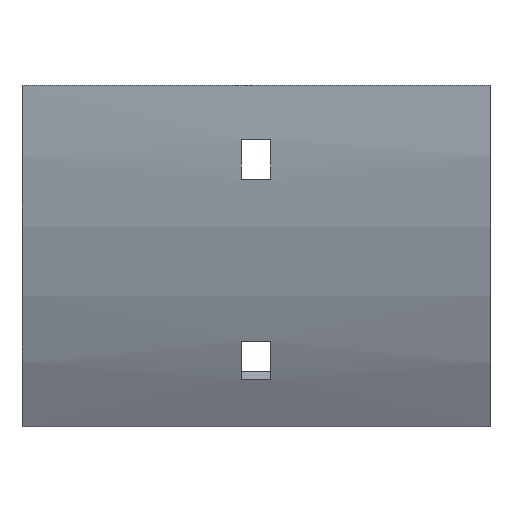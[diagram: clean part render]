
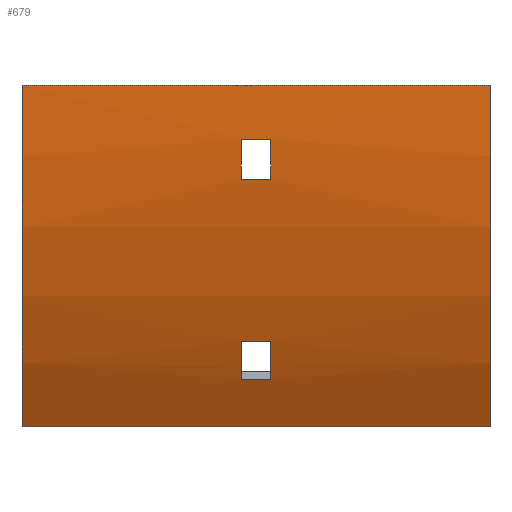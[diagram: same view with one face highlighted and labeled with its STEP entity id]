
A CAD part, front view. The second image highlights one B-rep face of the part: STEP entity #679.
In plain terms, the highlighted cylindrical face has radius 152 mm (diameter 304 mm), a partial arc.
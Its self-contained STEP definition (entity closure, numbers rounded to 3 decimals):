
#4 = EDGE_CURVE ( 'NONE', #702, #577, #79, .T. ) ;
#29 = FACE_BOUND ( 'NONE', #1082, .T. ) ;
#35 = CARTESIAN_POINT ( 'NONE',  ( 3.25, 100., 0. ) ) ;
#48 = DIRECTION ( 'NONE',  ( 1., 0., 0. ) ) ;
#58 = EDGE_LOOP ( 'NONE', ( #423, #208, #247, #1076 ) ) ;
#62 = CARTESIAN_POINT ( 'NONE',  ( -3.25, -40.874, -57.085 ) ) ;
#79 = LINE ( 'NONE', #171, #923 ) ;
#87 = AXIS2_PLACEMENT_3D ( 'NONE', #1057, #740, #330 ) ;
#89 = LINE ( 'NONE', #253, #199 ) ;
#92 = EDGE_CURVE ( 'NONE', #344, #1008, #1104, .T. ) ;
#104 = VERTEX_POINT ( 'NONE', #934 ) ;
#114 = LINE ( 'NONE', #459, #675 ) ;
#118 = CARTESIAN_POINT ( 'NONE',  ( -3.25, 100., 0. ) ) ;
#120 = DIRECTION ( 'NONE',  ( 1., 0., 0. ) ) ;
#139 = CARTESIAN_POINT ( 'NONE',  ( 3.25, -50.542, -21. ) ) ;
#144 = CIRCLE ( 'NONE', #87, 152. ) ;
#154 = DIRECTION ( 'NONE',  ( 0., 0., -1. ) ) ;
#155 = VERTEX_POINT ( 'NONE', #62 ) ;
#171 = CARTESIAN_POINT ( 'NONE',  ( 52., -50.542, -21. ) ) ;
#173 = VERTEX_POINT ( 'NONE', #1115 ) ;
#199 = VECTOR ( 'NONE', #783, 1000. ) ;
#208 = ORIENTED_EDGE ( 'NONE', *, *, #974, .F. ) ;
#215 = EDGE_CURVE ( 'NONE', #577, #344, #714, .T. ) ;
#224 = ORIENTED_EDGE ( 'NONE', *, *, #1111, .T. ) ;
#226 = CYLINDRICAL_SURFACE ( 'NONE', #1148, 152. ) ;
#245 = CARTESIAN_POINT ( 'NONE',  ( 52., -52., 0. ) ) ;
#247 = ORIENTED_EDGE ( 'NONE', *, *, #610, .F. ) ;
#251 = VERTEX_POINT ( 'NONE', #1034 ) ;
#253 = CARTESIAN_POINT ( 'NONE',  ( 52., -52., 0. ) ) ;
#277 = CARTESIAN_POINT ( 'NONE',  ( 52., -51.526, -12. ) ) ;
#280 = LINE ( 'NONE', #644, #647 ) ;
#287 = AXIS2_PLACEMENT_3D ( 'NONE', #35, #901, #468 ) ;
#292 = CARTESIAN_POINT ( 'NONE',  ( -52., 100., 0. ) ) ;
#298 = DIRECTION ( 'NONE',  ( 1., 0., 0. ) ) ;
#301 = DIRECTION ( 'NONE',  ( 0., 0., -1. ) ) ;
#310 = VERTEX_POINT ( 'NONE', #1124 ) ;
#330 = DIRECTION ( 'NONE',  ( 0., 0., -1. ) ) ;
#340 = AXIS2_PLACEMENT_3D ( 'NONE', #699, #519, #434 ) ;
#344 = VERTEX_POINT ( 'NONE', #599 ) ;
#366 = ORIENTED_EDGE ( 'NONE', *, *, #1024, .F. ) ;
#377 = VERTEX_POINT ( 'NONE', #245 ) ;
#384 = CARTESIAN_POINT ( 'NONE',  ( 3.25, -51.526, -12. ) ) ;
#409 = EDGE_CURVE ( 'NONE', #104, #251, #114, .T. ) ;
#414 = CARTESIAN_POINT ( 'NONE',  ( 52., -37.225, -65.37 ) ) ;
#423 = ORIENTED_EDGE ( 'NONE', *, *, #497, .F. ) ;
#434 = DIRECTION ( 'NONE',  ( 0., 0., 1. ) ) ;
#440 = CARTESIAN_POINT ( 'NONE',  ( 3.25, -37.225, -65.37 ) ) ;
#459 = CARTESIAN_POINT ( 'NONE',  ( 52., -31.636, -76. ) ) ;
#464 = ORIENTED_EDGE ( 'NONE', *, *, #4, .T. ) ;
#468 = DIRECTION ( 'NONE',  ( 0., 0., 1. ) ) ;
#470 = DIRECTION ( 'NONE',  ( 0., 0., -1. ) ) ;
#479 = EDGE_CURVE ( 'NONE', #377, #173, #89, .T. ) ;
#497 = EDGE_CURVE ( 'NONE', #155, #310, #1006, .T. ) ;
#519 = DIRECTION ( 'NONE',  ( -1., 0., 0. ) ) ;
#554 = ORIENTED_EDGE ( 'NONE', *, *, #215, .T. ) ;
#568 = VECTOR ( 'NONE', #48, 1000. ) ;
#577 = VERTEX_POINT ( 'NONE', #1012 ) ;
#592 = LINE ( 'NONE', #414, #568 ) ;
#595 = CIRCLE ( 'NONE', #840, 152. ) ;
#599 = CARTESIAN_POINT ( 'NONE',  ( -3.25, -51.526, -12. ) ) ;
#610 = EDGE_CURVE ( 'NONE', #935, #1095, #797, .T. ) ;
#644 = CARTESIAN_POINT ( 'NONE',  ( 52., -40.874, -57.085 ) ) ;
#647 = VECTOR ( 'NONE', #1001, 1000. ) ;
#675 = VECTOR ( 'NONE', #1014, 1000. ) ;
#677 = FACE_BOUND ( 'NONE', #58, .T. ) ;
#679 = ADVANCED_FACE ( 'NONE', ( #910, #29, #677 ), #226, .T. ) ;
#699 = CARTESIAN_POINT ( 'NONE',  ( -3.25, 100., 0. ) ) ;
#702 = VERTEX_POINT ( 'NONE', #139 ) ;
#704 = DIRECTION ( 'NONE',  ( -1., 0., 0. ) ) ;
#710 = ORIENTED_EDGE ( 'NONE', *, *, #1066, .T. ) ;
#714 = CIRCLE ( 'NONE', #340, 152. ) ;
#740 = DIRECTION ( 'NONE',  ( 1., 0., 0. ) ) ;
#749 = CARTESIAN_POINT ( 'NONE',  ( 3.25, 100., 0. ) ) ;
#783 = DIRECTION ( 'NONE',  ( -1., 0., 0. ) ) ;
#790 = EDGE_LOOP ( 'NONE', ( #224, #1083, #366, #1063 ) ) ;
#791 = EDGE_CURVE ( 'NONE', #310, #935, #592, .T. ) ;
#797 = CIRCLE ( 'NONE', #287, 152. ) ;
#817 = DIRECTION ( 'NONE',  ( 1., 0., 0. ) ) ;
#840 = AXIS2_PLACEMENT_3D ( 'NONE', #292, #298, #154 ) ;
#901 = DIRECTION ( 'NONE',  ( -1., 0., 0. ) ) ;
#910 = FACE_OUTER_BOUND ( 'NONE', #790, .T. ) ;
#923 = VECTOR ( 'NONE', #704, 1000. ) ;
#934 = CARTESIAN_POINT ( 'NONE',  ( 52., -31.636, -76. ) ) ;
#935 = VERTEX_POINT ( 'NONE', #440 ) ;
#974 = EDGE_CURVE ( 'NONE', #1095, #155, #280, .T. ) ;
#993 = AXIS2_PLACEMENT_3D ( 'NONE', #749, #120, #470 ) ;
#998 = VECTOR ( 'NONE', #1098, 1000. ) ;
#1001 = DIRECTION ( 'NONE',  ( -1., 0., 0. ) ) ;
#1006 = CIRCLE ( 'NONE', #1101, 152. ) ;
#1008 = VERTEX_POINT ( 'NONE', #384 ) ;
#1012 = CARTESIAN_POINT ( 'NONE',  ( -3.25, -50.542, -21. ) ) ;
#1014 = DIRECTION ( 'NONE',  ( -1., 0., 0. ) ) ;
#1024 = EDGE_CURVE ( 'NONE', #377, #104, #144, .T. ) ;
#1030 = CARTESIAN_POINT ( 'NONE',  ( 52., 100., 0. ) ) ;
#1034 = CARTESIAN_POINT ( 'NONE',  ( -52., -31.636, -76. ) ) ;
#1045 = ORIENTED_EDGE ( 'NONE', *, *, #92, .T. ) ;
#1057 = CARTESIAN_POINT ( 'NONE',  ( 52., 100., 0. ) ) ;
#1063 = ORIENTED_EDGE ( 'NONE', *, *, #479, .T. ) ;
#1066 = EDGE_CURVE ( 'NONE', #1008, #702, #1102, .T. ) ;
#1076 = ORIENTED_EDGE ( 'NONE', *, *, #791, .F. ) ;
#1082 = EDGE_LOOP ( 'NONE', ( #464, #554, #1045, #710 ) ) ;
#1083 = ORIENTED_EDGE ( 'NONE', *, *, #409, .F. ) ;
#1095 = VERTEX_POINT ( 'NONE', #1137 ) ;
#1098 = DIRECTION ( 'NONE',  ( 1., 0., 0. ) ) ;
#1101 = AXIS2_PLACEMENT_3D ( 'NONE', #118, #817, #301 ) ;
#1102 = CIRCLE ( 'NONE', #993, 152. ) ;
#1104 = LINE ( 'NONE', #277, #998 ) ;
#1111 = EDGE_CURVE ( 'NONE', #173, #251, #595, .T. ) ;
#1115 = CARTESIAN_POINT ( 'NONE',  ( -52., -52., 0. ) ) ;
#1116 = DIRECTION ( 'NONE',  ( -1., 0., 0. ) ) ;
#1123 = DIRECTION ( 'NONE',  ( 0., 0., 1. ) ) ;
#1124 = CARTESIAN_POINT ( 'NONE',  ( -3.25, -37.225, -65.37 ) ) ;
#1137 = CARTESIAN_POINT ( 'NONE',  ( 3.25, -40.874, -57.085 ) ) ;
#1148 = AXIS2_PLACEMENT_3D ( 'NONE', #1030, #1116, #1123 ) ;
